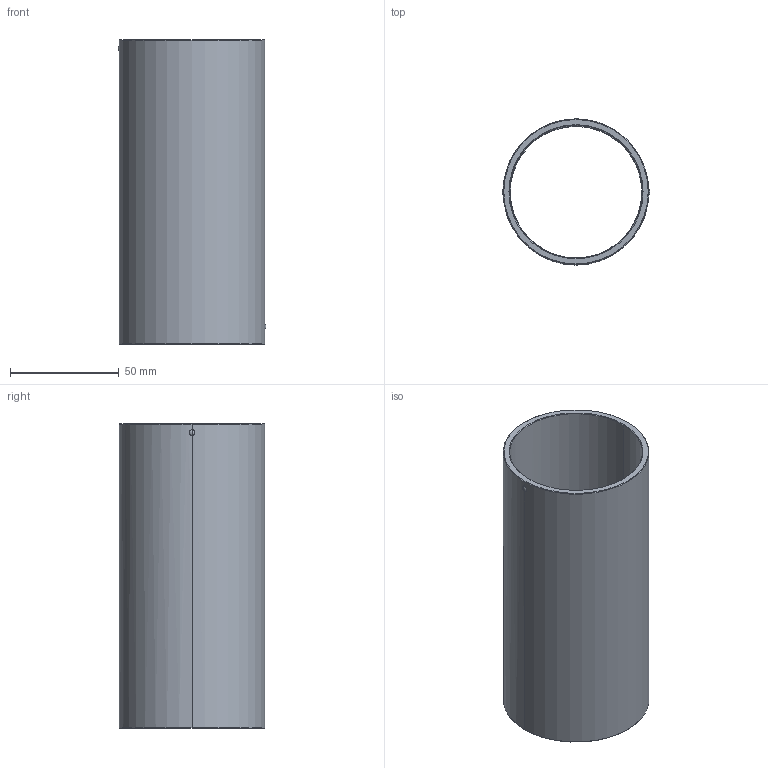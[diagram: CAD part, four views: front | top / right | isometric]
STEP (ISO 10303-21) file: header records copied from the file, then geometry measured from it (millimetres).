
FILE_DESCRIPTION(('CATIA V5 STEP Exchange'),'2;1');
FILE_NAME('C:\Users\Utente\Desktop\IO LAVORO\3D X SITO CF\X SITO\730\730-60x140.stp','2021-01-07T16:18:53+00:00',('none'),('none'),'CATIA Version 5 Release 20 GA (IN-10)','CATIA V5 STEP AP203','none');
FILE_SCHEMA(('CONFIG_CONTROL_DESIGN'));
Length unit declared in the file: millimetre
Products named in the file (1): 730-60x140
Bounding box: 67.99 x 67 x 140 mm (x, y, z)
Volume: 83274.7 mm3; surface area: 58098.7 mm2
Topology: 1 solids, 1 shells, 44 faces, 120 edges, 76 vertices
Faces by surface type: cylinder 18, cone 10, plane 8, sphere 8
Entity records: 1748 total; most frequent: CARTESIAN_POINT 685, ORIENTED_EDGE 240, DIRECTION 159, EDGE_CURVE 120, AXIS2_PLACEMENT_3D 78, VERTEX_POINT 76, B_SPLINE_CURVE_WITH_KNOTS 49, EDGE_LOOP 48
